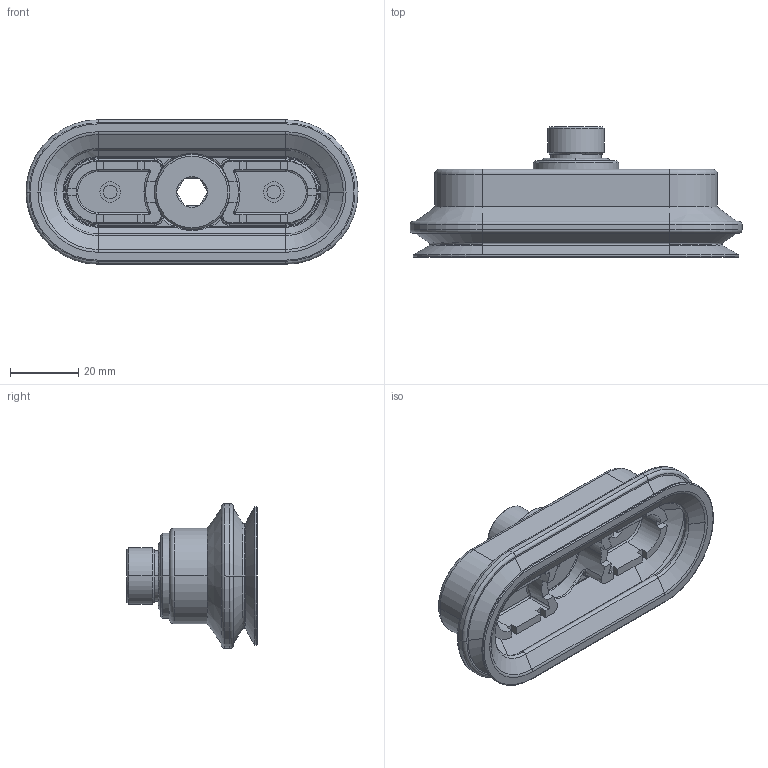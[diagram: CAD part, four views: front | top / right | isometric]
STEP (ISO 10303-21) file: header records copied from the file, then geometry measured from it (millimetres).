
FILE_DESCRIPTION (( 'STEP AP214' ), '1' );
FILE_NAME ('VOB40X95P-3060-G38M.STEP', '2025-11-10T13:58:27', ( '' ), ( '' ), 'SwSTEP 2.0', 'SolidWorks 2025', '' );
FILE_SCHEMA (( 'AUTOMOTIVE_DESIGN' ));
Length unit declared in the file: inch
Products named in the file (4): OV4095_wo_fitting_1.STEP; VOB40X95P-3060-G38M; OV4095-01-G3M.STEP; oring21.25-17-2.2_1.STEP
Assembly tree (3 placements, depth 3):
  VOB40X95P-3060-G38M
    OV4095-01-G3M.STEP
      OV4095_wo_fitting_1.STEP
      oring21.25-17-2.2_1.STEP
Bounding box: 97.4 x 38.25 x 42.4 mm (x, y, z)
Volume: 36630.3 mm3; surface area: 29775.1 mm2
Topology: 6 solids, 6 shells, 341 faces, 847 edges, 514 vertices
Faces by surface type: plane 114, cylinder 90, torus 53, cone 52, bspline 26, sphere 6
Entity records: 11897 total; most frequent: CARTESIAN_POINT 3608, DIRECTION 1790, ORIENTED_EDGE 1674, EDGE_CURVE 837, AXIS2_PLACEMENT_3D 711, VERTEX_POINT 514, CIRCLE 389, VECTOR 368
